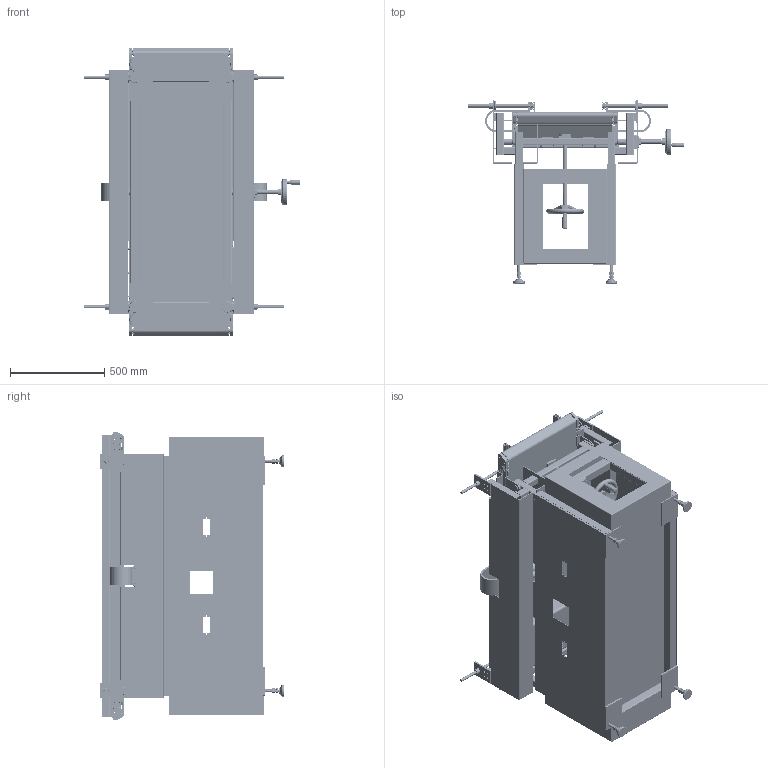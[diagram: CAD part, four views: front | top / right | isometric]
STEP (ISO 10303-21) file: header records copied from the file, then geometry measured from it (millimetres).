
FILE_DESCRIPTION(/* description */ (''),/* implementation_level */ '2;1');
FILE_NAME(/* name */ 'beltconveyor_a119_w500_l1500.stp',/* time_stamp */ '2025-01-12T16:45:10+08:00',/* author */ (''),/* organization */ (''),/* preprocessor_version */ 'ST-DEVELOPER v16.7',/* originating_system */ 'SIEMENS PLM Software NX 12.0',/* authorisation */ '');
FILE_SCHEMA (('AUTOMOTIVE_DESIGN { 1 0 10303 214 3 1 1 1 }'));
Products named in the file (62): _B6002ZZ; _STWN15; _MRUZ15_b; _CVSY-500-1500_l; _CVSY-500-1500-90-H_b; _CVSY-500-R_j; _CVSY-500-_mc; _MOTOR90_n; _CVSY-500-L_j; _CVSY90-SA220-IM-5-B; _CVS_bolt6-85; _MOTOR90_w; BSW25nut; BSW25housing; BSW25cover; B7205_DF; BSW25spacer; STWN25; BUN25housing; bearingB6205ZZ; HANDWHEEL_BaseModel20190311103918; HANDLE_BaseModel20190311103918; HUB_BaseModel20190311103918; SHAFT_MISUMI_BTK2505VGH-2.6-C10-400-G12-K9-Q15-S46-F30-P18-U20-C10-KC
5-V20_滚珠丝杠; NAT-BTK2505V_MISUMI_BTK2505VGH-2.6-C10-400-G12-K9-Q15-S46-F30-P18-U20
-C10-KC5-V20_滚珠丝杠; BODY_MISUMI_C-PHLK200_旋转手轮・曲柄式手柄; GRIP_MISUMI_C-PHLK200_旋转手轮・曲柄式手柄; 支撑架_默认_按加工_; BaseModel20190309145436; 固定板; 活动板钣金; 支撑钣金; MISUMI_SFJT16-400-M6_线性导向轴; ZZ18039-M330-30-025-滚珠丝杠-1; ZZ18042-M300-30-026-螺帽转接块-2; Uxing; 32-10T3; PAD_MISUMI_AJPDR16-150E_脚杯; NAT-M10-1_MISUMI_AJPDR16-150E_脚杯; RUBBER_MISUMI_AJPDR16-150E_脚杯 ...
Assembly tree (97 placements, depth 5):
  beltconveyor_a119_w500_l1500
    输送机前端防护钣金  x2
    底部钣金
    MISUMI_AJPDR16-150E_脚杯  x4
      NAT-M10-2_MISUMI_AJPDR16-150E_脚杯
      SHAFT_MISUMI_AJPDR16-150E_脚杯
      RUBBER_MISUMI_AJPDR16-150E_脚杯
      NAT-M10-1_MISUMI_AJPDR16-150E_脚杯
      PAD_MISUMI_AJPDR16-150E_脚杯
    摇杆固定钣金  x2
    ZZ18039-M330-01-003-机架钣金右-2  x2
    输送机后端防护钣金
    方管框架_默认_按加工_
    摇杆结构  x2
      MISUMI_C-PHLK200_旋转手轮・曲柄式手柄
        GRIP_MISUMI_C-PHLK200_旋转手轮・曲柄式手柄
        BODY_MISUMI_C-PHLK200_旋转手轮・曲柄式手柄
      MISUMI_BTK2505VGH-2.6-C10-400-G12-K9-Q15-S46-F30-P18-U20-C10-KC5-V20_
滚珠丝杠
        MRUZ15
          _MRUZ15_b
          _STWN15
          _B6002ZZ
        NAT-BTK2505V_MISUMI_BTK2505VGH-2.6-C10-400-G12-K9-Q15-S46-F30-P18-U20
-C10-KC5-V20_滚珠丝杠
        SHAFT_MISUMI_BTK2505VGH-2.6-C10-400-G12-K9-Q15-S46-F30-P18-U20-C10-KC
5-V20_滚珠丝杠
    上下旋轮防护板  x2
    电机部分2
      32-10T3  x2
      Uxing  x2
      ZZ18042-M300-30-026-螺帽转接块-2  x2
      ZZ18039-M330-30-025-滚珠丝杠-1
      BaseModel20190311103918
        HUB_BaseModel20190311103918
        HANDLE_BaseModel20190311103918
        HANDWHEEL_BaseModel20190311103918
      BUN25_BUN25
        bearingB6205ZZ
        BUN25housing
        STWN25
      BSW25_BSW25
        BSW25spacer
        B7205_DF
        BSW25cover
        BSW25housing
        BSW25nut
    2040型材_Default_按加工_  x2
    方案二
      MISUMI_SFJT16-400-M6_线性导向轴  x4
      CVSY-500-1500-90-SA220-INV-5-H-B-WA3-H300-P300
        _MOTOR90_w  x4
        _CVS_bolt6-85  x4
        _CVSY90-SA220-IM-5-B
        _CVSY-500-L_j  x2
        _MOTOR90_n  x4
        _CVSY-500-_mc
        _CVSY-500-R_j
        _CVSY-500-1500-90-H_b
        _CVSY-500-1500_l
      支撑钣金  x4
      活动板钣金  x2
      固定板  x4
Bounding box: 1144.58 x 974.09 x 1531.58 mm (x, y, z)
Volume: 41061038.4 mm3; surface area: 24286465.8 mm2
Topology: 189 solids, 207 shells, 8714 faces, 22338 edges, 14185 vertices
Faces by surface type: plane 4541, cylinder 2515, cone 904, extrusion 492, torus 213, sphere 25, bspline 24
Entity records: 212681 total; most frequent: CARTESIAN_POINT 48592, ORIENTED_EDGE 34118, DIRECTION 32301, EDGE_CURVE 17059, VERTEX_POINT 10896, AXIS2_PLACEMENT_3D 10814, VECTOR 10673, LINE 10181
